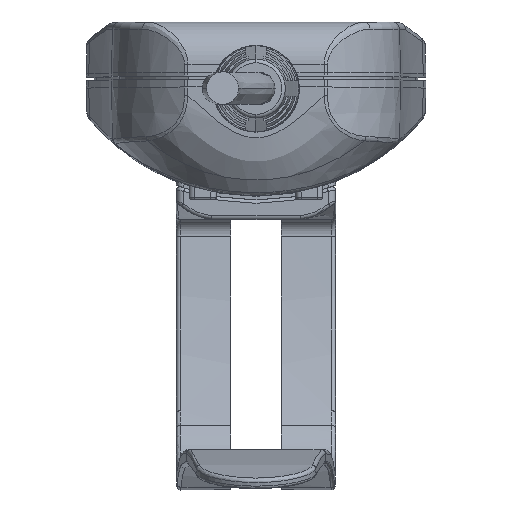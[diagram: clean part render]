
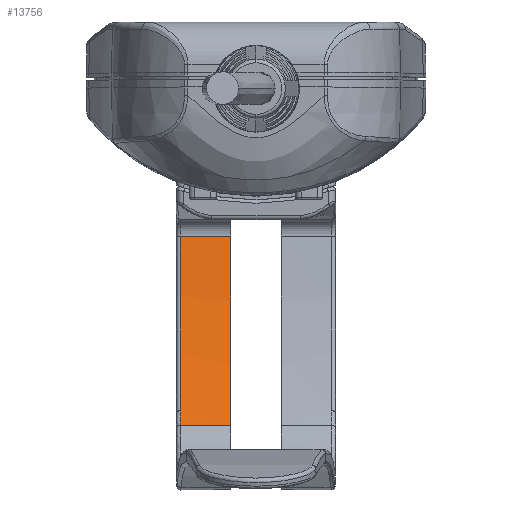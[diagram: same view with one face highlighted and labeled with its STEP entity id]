
A CAD part, top view. The second image highlights one B-rep face of the part: STEP entity #13756.
In plain terms, the highlighted cylindrical face has radius 95.886 mm (diameter 191.772 mm), a partial arc.
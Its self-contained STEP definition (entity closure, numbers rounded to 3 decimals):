
#3515=CARTESIAN_POINT('',(116.5,-9.7,38.894));
#3516=DIRECTION('',(-1.,0.,0.));
#3517=DIRECTION('',(0.,-0.144,-0.99));
#3518=AXIS2_PLACEMENT_3D('',#3515,#3516,#3517);
#3610=CARTESIAN_POINT('',(109.5,-9.7,38.894));
#3611=DIRECTION('',(-1.,0.,0.));
#3612=DIRECTION('',(0.,-0.396,-0.918));
#3613=AXIS2_PLACEMENT_3D('',#3610,#3611,#3612);
#3615=CARTESIAN_POINT('',(109.5,-9.7,38.894));
#3616=DIRECTION('',(-1.,0.,0.));
#3617=DIRECTION('',(0.,-0.144,-0.99));
#3618=AXIS2_PLACEMENT_3D('',#3615,#3616,#3617);
#3634=DIRECTION('',(1.,0.,0.));
#3635=VECTOR('',#3634,7.);
#3636=CARTESIAN_POINT('',(109.5,-23.488,-55.996));
#3637=LINE('',#3636,#3635);
#3746=DIRECTION('',(-1.,0.,0.));
#3747=VECTOR('',#3746,6.999);
#3748=CARTESIAN_POINT('',(116.5,-49.708,-48.247));
#3749=LINE('',#3748,#3747);
#8066=CARTESIAN_POINT('',(109.5,-47.654,
-49.161));
#8067=CARTESIAN_POINT('',(109.5,-49.708,
-48.247));
#8068=VERTEX_POINT('',#8066);
#8069=VERTEX_POINT('',#8067);
#8070=CARTESIAN_POINT('',(116.5,-49.708,-48.247));
#8071=VERTEX_POINT('',#8070);
#8072=CARTESIAN_POINT('',(116.5,-23.488,-55.996));
#8073=VERTEX_POINT('',#8072);
#8074=CARTESIAN_POINT('',(109.5,-23.488,-55.996));
#8075=VERTEX_POINT('',#8074);
#13741=CARTESIAN_POINT('',(109.36,-9.7,38.894));
#13742=DIRECTION('',(1.,0.,0.));
#13743=DIRECTION('',(0.,-1.,0.));
#13744=AXIS2_PLACEMENT_3D('',#13741,#13742,#13743);
#13745=CYLINDRICAL_SURFACE('',#13744,95.886);
#13746=ORIENTED_EDGE('',*,*,#13731,.F.);
#13748=ORIENTED_EDGE('',*,*,#13747,.F.);
#13750=ORIENTED_EDGE('',*,*,#13749,.T.);
#13751=ORIENTED_EDGE('',*,*,#13574,.T.);
#13753=ORIENTED_EDGE('',*,*,#13752,.T.);
#13754=EDGE_LOOP('',(#13746,#13748,#13750,#13751,#13753));
#13755=FACE_OUTER_BOUND('',#13754,.F.);
#13756=ADVANCED_FACE('',(#13755),#13745,.F.);
#3519=CIRCLE('',#3518,95.886);
#3614=CIRCLE('',#3613,95.886);
#3619=CIRCLE('',#3618,95.886);
#13574=EDGE_CURVE('',#8073,#8071,#3519,.T.);
#13731=EDGE_CURVE('',#8068,#8069,#3614,.T.);
#13747=EDGE_CURVE('',#8075,#8068,#3619,.T.);
#13749=EDGE_CURVE('',#8075,#8073,#3637,.T.);
#13752=EDGE_CURVE('',#8071,#8069,#3749,.T.);
